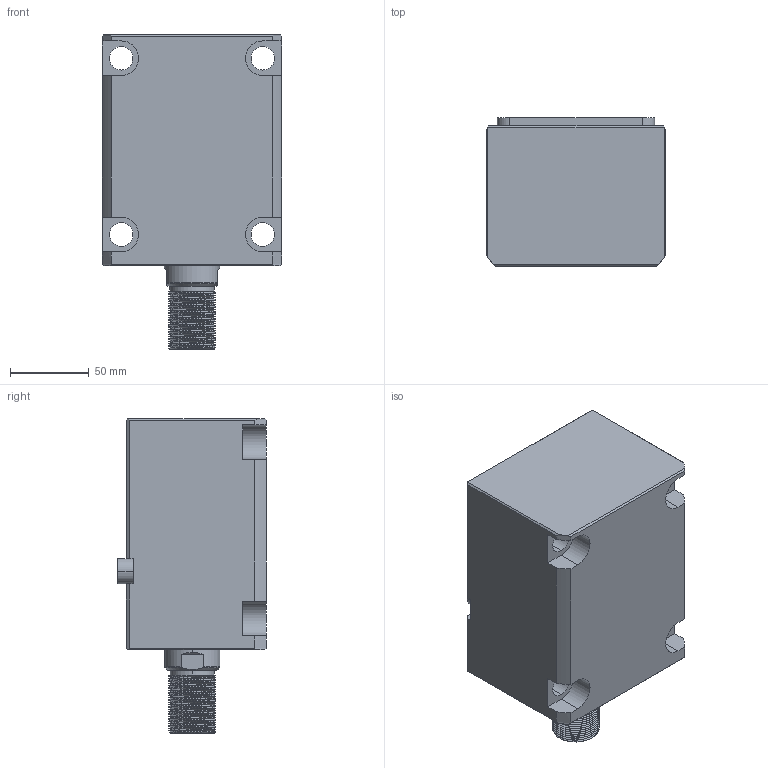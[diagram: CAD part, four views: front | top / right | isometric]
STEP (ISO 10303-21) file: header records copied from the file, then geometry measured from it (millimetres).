
FILE_DESCRIPTION (( 'STEP AP214' ), '1' );
FILE_NAME ('chtb-lam63x80w_asm.STEP', '2018-05-22T03:41:03', ( 'Windows' ), ( 'Microsoft' ), 'SwSTEP 2.0', 'SolidWorks 2015', '' );
FILE_SCHEMA (( 'AUTOMOTIVE_DESIGN' ));
Length unit declared in the file: millimetre
Products named in the file (5): CHTB-LAM63X80NBT; CHTB-LA63PJ; CHTB63X80WHSG; CHTB-63QG; chtb-lam63x80w_asm
Assembly tree (4 placements, depth 2):
  chtb-lam63x80w_asm
    CHTB-63QG
    CHTB63X80WHSG
    CHTB-LA63PJ
    CHTB-LAM63X80NBT
Bounding box: 114 x 94.5 x 200 mm (x, y, z)
Volume: 1280338.4 mm3; surface area: 177114.1 mm2
Topology: 4 solids, 4 shells, 236 faces, 696 edges, 473 vertices
Faces by surface type: cylinder 148, plane 58, bspline 15, cone 9, torus 6
Entity records: 23566 total; most frequent: CARTESIAN_POINT 17780, ORIENTED_EDGE 1384, DIRECTION 946, EDGE_CURVE 692, VERTEX_POINT 473, AXIS2_PLACEMENT_3D 344, EDGE_LOOP 259, VECTOR 258
